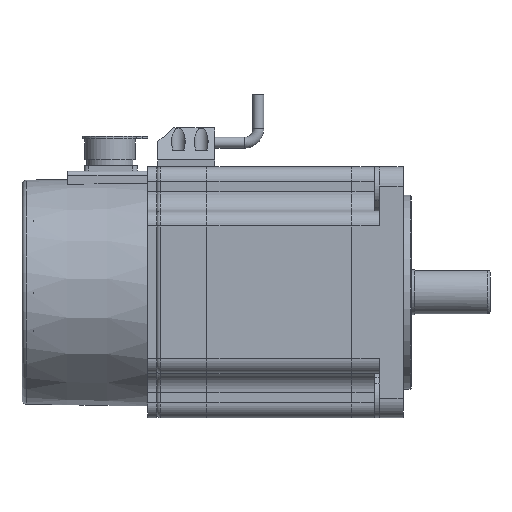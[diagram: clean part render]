
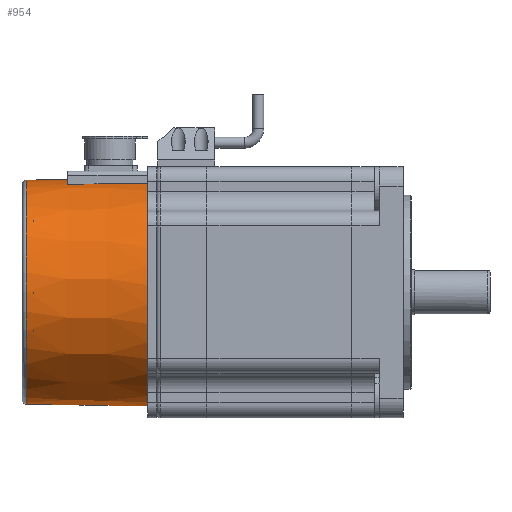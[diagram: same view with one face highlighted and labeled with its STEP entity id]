
A CAD part, left-side view. The second image highlights one B-rep face of the part: STEP entity #954.
In plain terms, the highlighted conical face has half-angle 1 degrees and reference radius 50 mm.
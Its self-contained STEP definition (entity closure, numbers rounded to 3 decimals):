
#32=CONICAL_SURFACE('',#10637,50.,1.);
#94=B_SPLINE_CURVE_WITH_KNOTS('',3,(#15440,#15441,#15442,#15443),
 .UNSPECIFIED.,.F.,.F.,(4,4),(0.,1.),.UNSPECIFIED.);
#95=B_SPLINE_CURVE_WITH_KNOTS('',3,(#15447,#15448,#15449,#15450),
 .UNSPECIFIED.,.F.,.F.,(4,4),(0.,1.),.UNSPECIFIED.);
#954=ADVANCED_FACE('',(#3884,#3885),#32,.T.);
#3884=FACE_BOUND('',#4306,.T.);
#3885=FACE_BOUND('',#4307,.T.);
#4306=EDGE_LOOP('',(#5680,#5681,#5682,#5683));
#4307=EDGE_LOOP('',(#5684));
#5680=ORIENTED_EDGE('',*,*,#9132,.F.);
#5681=ORIENTED_EDGE('',*,*,#9133,.F.);
#5682=ORIENTED_EDGE('',*,*,#9134,.F.);
#5683=ORIENTED_EDGE('',*,*,#8878,.F.);
#5684=ORIENTED_EDGE('',*,*,#9135,.T.);
#7844=VERTEX_POINT('',#14671);
#7848=VERTEX_POINT('',#14679);
#8078=VERTEX_POINT('',#15444);
#8079=VERTEX_POINT('',#15446);
#8080=VERTEX_POINT('',#15452);
#8878=EDGE_CURVE('',#7848,#7844,#10144,.T.);
#9132=EDGE_CURVE('',#8078,#7848,#94,.T.);
#9133=EDGE_CURVE('',#8079,#8078,#10165,.T.);
#9134=EDGE_CURVE('',#7844,#8079,#95,.T.);
#9135=EDGE_CURVE('',#8080,#8080,#10166,.T.);
#10144=CIRCLE('',#10582,50.);
#10165=CIRCLE('',#10635,49.389);
#10166=CIRCLE('',#10636,49.074);
#10582=AXIS2_PLACEMENT_3D('',#14680,#11835,#11836);
#10635=AXIS2_PLACEMENT_3D('',#15445,#12169,#12170);
#10636=AXIS2_PLACEMENT_3D('',#15451,#12171,#12172);
#10637=AXIS2_PLACEMENT_3D('',#15453,#12173,#12174);
#11835=DIRECTION('',(0.,-1.,0.));
#11836=DIRECTION('',(0.,0.,-1.));
#12169=DIRECTION('',(0.,-1.,0.));
#12170=DIRECTION('',(0.,0.,1.));
#12171=DIRECTION('',(0.,-1.,0.));
#12172=DIRECTION('',(0.,0.,-1.));
#12173=DIRECTION('',(0.,-1.,0.));
#12174=DIRECTION('',(0.,0.,1.));
#14671=CARTESIAN_POINT('',(-181.108,16.796,-54.553));
#14679=CARTESIAN_POINT('',(-211.108,16.796,-54.553));
#14680=CARTESIAN_POINT('',(-196.108,16.796,-102.25));
#15440=CARTESIAN_POINT('',(-210.497,51.796,-55.003));
#15441=CARTESIAN_POINT('',(-210.701,40.129,-54.853));
#15442=CARTESIAN_POINT('',(-210.904,28.462,-54.702));
#15443=CARTESIAN_POINT('',(-211.108,16.796,-54.553));
#15444=CARTESIAN_POINT('',(-210.497,51.796,-55.003));
#15445=CARTESIAN_POINT('',(-196.108,51.796,-102.25));
#15446=CARTESIAN_POINT('',(-181.719,51.796,-55.003));
#15447=CARTESIAN_POINT('',(-181.108,16.796,-54.553));
#15448=CARTESIAN_POINT('',(-181.312,28.462,-54.702));
#15449=CARTESIAN_POINT('',(-181.515,40.129,-54.853));
#15450=CARTESIAN_POINT('',(-181.719,51.796,-55.003));
#15451=CARTESIAN_POINT('',(-196.108,69.83,-102.25));
#15452=CARTESIAN_POINT('',(-196.108,69.83,-151.324));
#15453=CARTESIAN_POINT('',(-196.108,16.796,-102.25));
